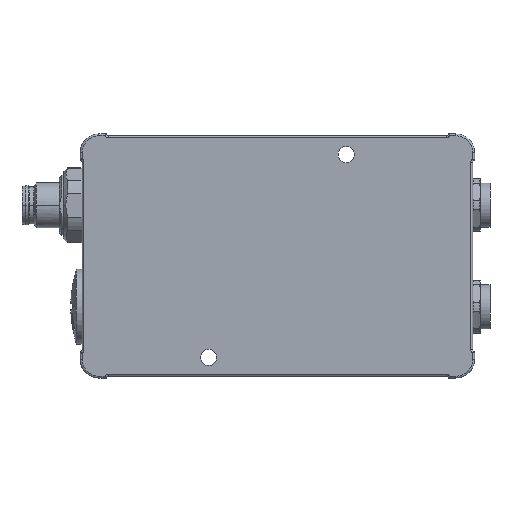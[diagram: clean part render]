
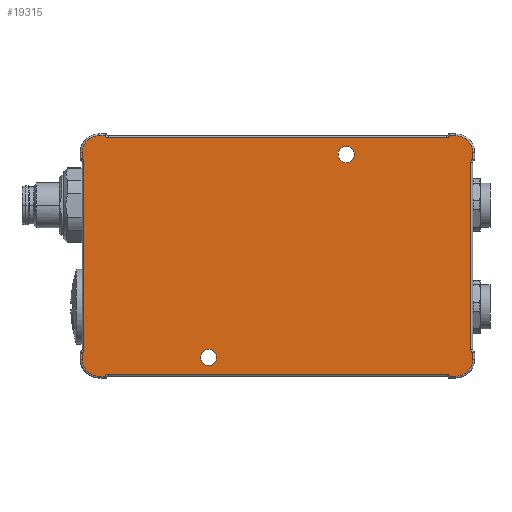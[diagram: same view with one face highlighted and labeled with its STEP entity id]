
A CAD part, front view. The second image highlights one B-rep face of the part: STEP entity #19315.
In plain terms, the highlighted planar face has unit normal (0, -1, 0).
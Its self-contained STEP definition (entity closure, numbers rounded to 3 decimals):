
#56=DIRECTION('',(0.,0.,1.));
#57=VECTOR('',#56,1.634);
#58=CARTESIAN_POINT('',(52.,0.,25.866));
#59=LINE('',#58,#57);
#64=CARTESIAN_POINT('',(52.5,0.,25.));
#65=DIRECTION('',(0.,-1.,0.));
#66=DIRECTION('',(-0.5,0.,0.866));
#67=AXIS2_PLACEMENT_3D('',#64,#65,#66);
#72=DIRECTION('',(0.,0.,-1.));
#73=VECTOR('',#72,50.);
#74=CARTESIAN_POINT('',(51.5,0.,25.));
#75=LINE('',#74,#73);
#79=CARTESIAN_POINT('',(52.5,0.,-25.));
#80=DIRECTION('',(0.,-1.,0.));
#81=DIRECTION('',(-1.,0.,0.));
#82=AXIS2_PLACEMENT_3D('',#79,#80,#81);
#87=DIRECTION('',(0.,0.,1.));
#88=VECTOR('',#87,1.634);
#89=CARTESIAN_POINT('',(52.,0.,-27.5));
#90=LINE('',#89,#88);
#94=CARTESIAN_POINT('',(47.5,0.,-27.5));
#95=DIRECTION('',(0.,-1.,0.));
#96=DIRECTION('',(0.,0.,-1.));
#97=AXIS2_PLACEMENT_3D('',#94,#95,#96);
#102=DIRECTION('',(1.,0.,0.));
#103=VECTOR('',#102,1.634);
#104=CARTESIAN_POINT('',(45.866,0.,-32.));
#105=LINE('',#104,#103);
#109=CARTESIAN_POINT('',(45.,0.,-32.5));
#110=DIRECTION('',(0.,-1.,0.));
#111=DIRECTION('',(0.866,0.,0.5));
#112=AXIS2_PLACEMENT_3D('',#109,#110,#111);
#117=DIRECTION('',(-1.,0.,0.));
#118=VECTOR('',#117,90.);
#119=CARTESIAN_POINT('',(45.,0.,-31.5));
#120=LINE('',#119,#118);
#124=CARTESIAN_POINT('',(-45.,0.,-32.5));
#125=DIRECTION('',(0.,-1.,0.));
#126=DIRECTION('',(0.,0.,1.));
#127=AXIS2_PLACEMENT_3D('',#124,#125,#126);
#132=DIRECTION('',(1.,0.,0.));
#133=VECTOR('',#132,1.634);
#134=CARTESIAN_POINT('',(-47.5,0.,-32.));
#135=LINE('',#134,#133);
#139=CARTESIAN_POINT('',(-47.5,0.,-27.5));
#140=DIRECTION('',(0.,-1.,0.));
#141=DIRECTION('',(-1.,0.,0.));
#142=AXIS2_PLACEMENT_3D('',#139,#140,#141);
#147=DIRECTION('',(0.,0.,-1.));
#148=VECTOR('',#147,1.634);
#149=CARTESIAN_POINT('',(-52.,0.,-25.866));
#150=LINE('',#149,#148);
#154=CARTESIAN_POINT('',(-52.5,0.,-25.));
#155=DIRECTION('',(0.,-1.,0.));
#156=DIRECTION('',(0.5,0.,-0.866));
#157=AXIS2_PLACEMENT_3D('',#154,#155,#156);
#162=DIRECTION('',(0.,0.,1.));
#163=VECTOR('',#162,50.);
#164=CARTESIAN_POINT('',(-51.5,0.,-25.));
#165=LINE('',#164,#163);
#169=CARTESIAN_POINT('',(-52.5,0.,25.));
#170=DIRECTION('',(0.,-1.,0.));
#171=DIRECTION('',(1.,0.,0.));
#172=AXIS2_PLACEMENT_3D('',#169,#170,#171);
#177=DIRECTION('',(0.,0.,-1.));
#178=VECTOR('',#177,1.634);
#179=CARTESIAN_POINT('',(-52.,0.,27.5));
#180=LINE('',#179,#178);
#184=CARTESIAN_POINT('',(-47.5,0.,27.5));
#185=DIRECTION('',(0.,-1.,0.));
#186=DIRECTION('',(0.,0.,1.));
#187=AXIS2_PLACEMENT_3D('',#184,#185,#186);
#192=DIRECTION('',(-1.,0.,0.));
#193=VECTOR('',#192,1.634);
#194=CARTESIAN_POINT('',(-45.866,0.,32.));
#195=LINE('',#194,#193);
#199=CARTESIAN_POINT('',(-45.,0.,32.5));
#200=DIRECTION('',(0.,-1.,0.));
#201=DIRECTION('',(-0.866,0.,-0.5));
#202=AXIS2_PLACEMENT_3D('',#199,#200,#201);
#207=DIRECTION('',(1.,0.,0.));
#208=VECTOR('',#207,90.);
#209=CARTESIAN_POINT('',(-45.,0.,31.5));
#210=LINE('',#209,#208);
#214=CARTESIAN_POINT('',(45.,0.,32.5));
#215=DIRECTION('',(0.,-1.,0.));
#216=DIRECTION('',(0.,0.,-1.));
#217=AXIS2_PLACEMENT_3D('',#214,#215,#216);
#222=DIRECTION('',(-1.,0.,0.));
#223=VECTOR('',#222,1.634);
#224=CARTESIAN_POINT('',(47.5,0.,32.));
#225=LINE('',#224,#223);
#229=CARTESIAN_POINT('',(47.5,0.,27.5));
#230=DIRECTION('',(0.,-1.,0.));
#231=DIRECTION('',(1.,0.,0.));
#232=AXIS2_PLACEMENT_3D('',#229,#230,#231);
#237=CARTESIAN_POINT('',(-18.3,0.,-27.));
#238=DIRECTION('',(0.,1.,0.));
#239=DIRECTION('',(1.,0.,0.));
#240=AXIS2_PLACEMENT_3D('',#237,#238,#239);
#245=CARTESIAN_POINT('',(-18.3,0.,-27.));
#246=DIRECTION('',(0.,1.,0.));
#247=DIRECTION('',(-1.,0.,0.));
#248=AXIS2_PLACEMENT_3D('',#245,#246,#247);
#253=CARTESIAN_POINT('',(18.3,0.,27.));
#254=DIRECTION('',(0.,1.,0.));
#255=DIRECTION('',(-1.,0.,0.));
#256=AXIS2_PLACEMENT_3D('',#253,#254,#255);
#261=CARTESIAN_POINT('',(18.3,0.,27.));
#262=DIRECTION('',(0.,1.,0.));
#263=DIRECTION('',(1.,0.,0.));
#264=AXIS2_PLACEMENT_3D('',#261,#262,#263);
#16983=CARTESIAN_POINT('',(-16.15,0.,-27.));
#16984=CARTESIAN_POINT('',(-20.45,0.,-27.));
#16985=VERTEX_POINT('',#16983);
#16986=VERTEX_POINT('',#16984);
#16991=CARTESIAN_POINT('',(16.15,0.,27.));
#16992=CARTESIAN_POINT('',(20.45,0.,27.));
#16993=VERTEX_POINT('',#16991);
#16994=VERTEX_POINT('',#16992);
#17019=CARTESIAN_POINT('',(52.,0.,25.866));
#17020=CARTESIAN_POINT('',(52.,0.,27.5));
#17021=VERTEX_POINT('',#17019);
#17022=VERTEX_POINT('',#17020);
#17027=CARTESIAN_POINT('',(47.5,0.,32.));
#17028=VERTEX_POINT('',#17027);
#17033=CARTESIAN_POINT('',(45.866,0.,32.));
#17034=VERTEX_POINT('',#17033);
#17039=CARTESIAN_POINT('',(51.5,0.,25.));
#17040=CARTESIAN_POINT('',(51.5,0.,-25.));
#17041=VERTEX_POINT('',#17039);
#17042=VERTEX_POINT('',#17040);
#17043=CARTESIAN_POINT('',(45.866,0.,-32.));
#17044=CARTESIAN_POINT('',(47.5,0.,-32.));
#17045=VERTEX_POINT('',#17043);
#17046=VERTEX_POINT('',#17044);
#17051=CARTESIAN_POINT('',(52.,0.,-27.5));
#17052=VERTEX_POINT('',#17051);
#17057=CARTESIAN_POINT('',(52.,0.,-25.866));
#17058=VERTEX_POINT('',#17057);
#17063=CARTESIAN_POINT('',(45.,0.,-31.5));
#17064=CARTESIAN_POINT('',(-45.,0.,-31.5));
#17065=VERTEX_POINT('',#17063);
#17066=VERTEX_POINT('',#17064);
#17067=CARTESIAN_POINT('',(-52.,0.,-25.866));
#17068=CARTESIAN_POINT('',(-52.,0.,-27.5));
#17069=VERTEX_POINT('',#17067);
#17070=VERTEX_POINT('',#17068);
#17075=CARTESIAN_POINT('',(-47.5,0.,-32.));
#17076=VERTEX_POINT('',#17075);
#17081=CARTESIAN_POINT('',(-45.866,0.,-32.));
#17082=VERTEX_POINT('',#17081);
#17087=CARTESIAN_POINT('',(-51.5,0.,-25.));
#17088=CARTESIAN_POINT('',(-51.5,0.,25.));
#17089=VERTEX_POINT('',#17087);
#17090=VERTEX_POINT('',#17088);
#17095=CARTESIAN_POINT('',(-52.,0.,27.5));
#17096=CARTESIAN_POINT('',(-52.,0.,25.866));
#17097=VERTEX_POINT('',#17095);
#17098=VERTEX_POINT('',#17096);
#17099=CARTESIAN_POINT('',(-47.5,0.,32.));
#17100=VERTEX_POINT('',#17099);
#17103=CARTESIAN_POINT('',(-45.866,0.,32.));
#17104=VERTEX_POINT('',#17103);
#17111=CARTESIAN_POINT('',(-45.,0.,31.5));
#17112=CARTESIAN_POINT('',(45.,0.,31.5));
#17113=VERTEX_POINT('',#17111);
#17114=VERTEX_POINT('',#17112);
#19248=CARTESIAN_POINT('',(0.,0.,0.));
#19249=DIRECTION('',(0.,1.,0.));
#19250=DIRECTION('',(1.,0.,0.));
#19251=AXIS2_PLACEMENT_3D('',#19248,#19249,#19250);
#19252=PLANE('',#19251);
#19254=ORIENTED_EDGE('',*,*,#19253,.F.);
#19256=ORIENTED_EDGE('',*,*,#19255,.T.);
#19258=ORIENTED_EDGE('',*,*,#19257,.T.);
#19260=ORIENTED_EDGE('',*,*,#19259,.T.);
#19262=ORIENTED_EDGE('',*,*,#19261,.F.);
#19264=ORIENTED_EDGE('',*,*,#19263,.F.);
#19266=ORIENTED_EDGE('',*,*,#19265,.F.);
#19268=ORIENTED_EDGE('',*,*,#19267,.T.);
#19270=ORIENTED_EDGE('',*,*,#19269,.T.);
#19272=ORIENTED_EDGE('',*,*,#19271,.T.);
#19274=ORIENTED_EDGE('',*,*,#19273,.F.);
#19276=ORIENTED_EDGE('',*,*,#19275,.F.);
#19278=ORIENTED_EDGE('',*,*,#19277,.F.);
#19280=ORIENTED_EDGE('',*,*,#19279,.T.);
#19282=ORIENTED_EDGE('',*,*,#19281,.T.);
#19284=ORIENTED_EDGE('',*,*,#19283,.T.);
#19286=ORIENTED_EDGE('',*,*,#19285,.F.);
#19288=ORIENTED_EDGE('',*,*,#19287,.F.);
#19290=ORIENTED_EDGE('',*,*,#19289,.F.);
#19292=ORIENTED_EDGE('',*,*,#19291,.T.);
#19294=ORIENTED_EDGE('',*,*,#19293,.T.);
#19296=ORIENTED_EDGE('',*,*,#19295,.T.);
#19298=ORIENTED_EDGE('',*,*,#19297,.F.);
#19300=ORIENTED_EDGE('',*,*,#19299,.F.);
#19301=EDGE_LOOP('',(#19254,#19256,#19258,#19260,#19262,#19264,#19266,#19268,
#19270,#19272,#19274,#19276,#19278,#19280,#19282,#19284,#19286,#19288,#19290,
#19292,#19294,#19296,#19298,#19300));
#19302=FACE_OUTER_BOUND('',#19301,.F.);
#19304=ORIENTED_EDGE('',*,*,#19303,.F.);
#19306=ORIENTED_EDGE('',*,*,#19305,.F.);
#19307=EDGE_LOOP('',(#19304,#19306));
#19308=FACE_BOUND('',#19307,.F.);
#19310=ORIENTED_EDGE('',*,*,#19309,.F.);
#19312=ORIENTED_EDGE('',*,*,#19311,.F.);
#19313=EDGE_LOOP('',(#19310,#19312));
#19314=FACE_BOUND('',#19313,.F.);
#68=CIRCLE('',#67,1.);
#83=CIRCLE('',#82,1.);
#98=CIRCLE('',#97,4.5);
#113=CIRCLE('',#112,1.);
#128=CIRCLE('',#127,1.);
#143=CIRCLE('',#142,4.5);
#158=CIRCLE('',#157,1.);
#173=CIRCLE('',#172,1.);
#188=CIRCLE('',#187,4.5);
#203=CIRCLE('',#202,1.);
#218=CIRCLE('',#217,1.);
#233=CIRCLE('',#232,4.5);
#241=CIRCLE('',#240,2.15);
#249=CIRCLE('',#248,2.15);
#257=CIRCLE('',#256,2.15);
#265=CIRCLE('',#264,2.15);
#19253=EDGE_CURVE('',#17021,#17022,#59,.T.);
#19255=EDGE_CURVE('',#17021,#17041,#68,.T.);
#19257=EDGE_CURVE('',#17041,#17042,#75,.T.);
#19259=EDGE_CURVE('',#17042,#17058,#83,.T.);
#19261=EDGE_CURVE('',#17052,#17058,#90,.T.);
#19263=EDGE_CURVE('',#17046,#17052,#98,.T.);
#19265=EDGE_CURVE('',#17045,#17046,#105,.T.);
#19267=EDGE_CURVE('',#17045,#17065,#113,.T.);
#19269=EDGE_CURVE('',#17065,#17066,#120,.T.);
#19271=EDGE_CURVE('',#17066,#17082,#128,.T.);
#19273=EDGE_CURVE('',#17076,#17082,#135,.T.);
#19275=EDGE_CURVE('',#17070,#17076,#143,.T.);
#19277=EDGE_CURVE('',#17069,#17070,#150,.T.);
#19279=EDGE_CURVE('',#17069,#17089,#158,.T.);
#19281=EDGE_CURVE('',#17089,#17090,#165,.T.);
#19283=EDGE_CURVE('',#17090,#17098,#173,.T.);
#19285=EDGE_CURVE('',#17097,#17098,#180,.T.);
#19287=EDGE_CURVE('',#17100,#17097,#188,.T.);
#19289=EDGE_CURVE('',#17104,#17100,#195,.T.);
#19291=EDGE_CURVE('',#17104,#17113,#203,.T.);
#19293=EDGE_CURVE('',#17113,#17114,#210,.T.);
#19295=EDGE_CURVE('',#17114,#17034,#218,.T.);
#19297=EDGE_CURVE('',#17028,#17034,#225,.T.);
#19299=EDGE_CURVE('',#17022,#17028,#233,.T.);
#19303=EDGE_CURVE('',#16985,#16986,#241,.T.);
#19305=EDGE_CURVE('',#16986,#16985,#249,.T.);
#19309=EDGE_CURVE('',#16993,#16994,#257,.T.);
#19311=EDGE_CURVE('',#16994,#16993,#265,.T.);
#19315=ADVANCED_FACE('',(#19302,#19308,#19314),#19252,.F.);
